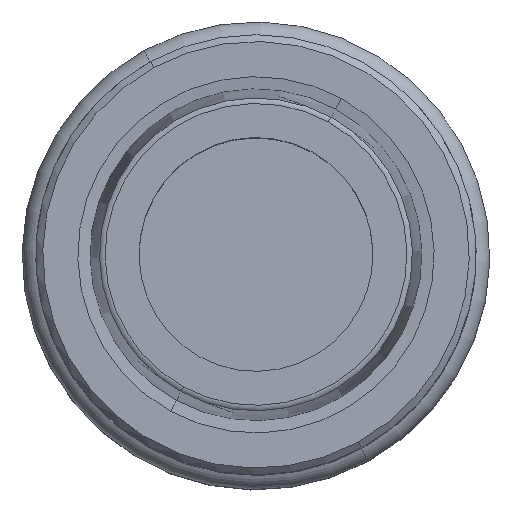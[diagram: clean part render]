
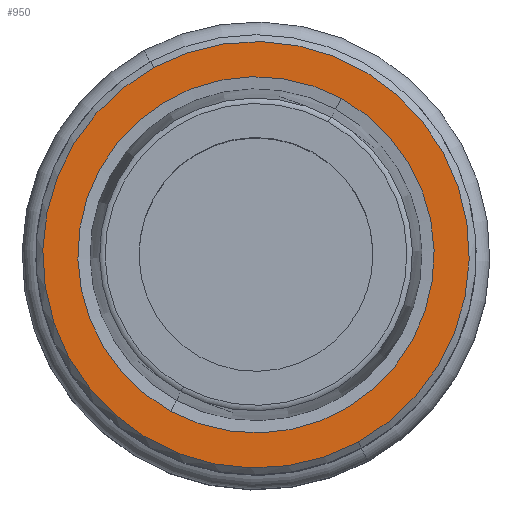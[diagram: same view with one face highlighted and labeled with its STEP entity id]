
A CAD part, top view. The second image highlights one B-rep face of the part: STEP entity #950.
In plain terms, the highlighted planar face has unit normal (0, 0, 1).
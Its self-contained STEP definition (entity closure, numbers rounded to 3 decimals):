
#849=AXIS2_PLACEMENT_3D('Circle Axis2P3D',#847,#848,$) ;
#869=AXIS2_PLACEMENT_3D('Circle Axis2P3D',#867,#868,$) ;
#926=AXIS2_PLACEMENT_3D('Plane Axis2P3D',#923,#924,#925) ;
#934=AXIS2_PLACEMENT_3D('Circle Axis2P3D',#932,#933,$) ;
#943=AXIS2_PLACEMENT_3D('Circle Axis2P3D',#941,#942,$) ;
#844=CARTESIAN_POINT('Vertex',(-7.431,13.603,0.)) ;
#847=CARTESIAN_POINT('Axis2P3D Location',(0.,0.,0.)) ;
#851=CARTESIAN_POINT('Vertex',(7.431,-13.603,0.)) ;
#867=CARTESIAN_POINT('Axis2P3D Location',(0.,0.,0.)) ;
#923=CARTESIAN_POINT('Axis2P3D Location',(0.,-12.16,0.)) ;
#932=CARTESIAN_POINT('Axis2P3D Location',(0.,0.,0.)) ;
#936=CARTESIAN_POINT('Vertex',(6.209,11.365,0.)) ;
#938=CARTESIAN_POINT('Vertex',(-6.209,-11.365,0.)) ;
#941=CARTESIAN_POINT('Axis2P3D Location',(0.,0.,0.)) ;
#848=DIRECTION('Axis2P3D Direction',(0.,0.,-1.)) ;
#868=DIRECTION('Axis2P3D Direction',(0.,0.,-1.)) ;
#924=DIRECTION('Axis2P3D Direction',(0.,0.,-1.)) ;
#925=DIRECTION('Axis2P3D XDirection',(-1.,0.,0.)) ;
#933=DIRECTION('Axis2P3D Direction',(0.,0.,-1.)) ;
#942=DIRECTION('Axis2P3D Direction',(0.,0.,-1.)) ;
#929=ORIENTED_EDGE('',*,*,#871,.F.) ;
#930=ORIENTED_EDGE('',*,*,#853,.F.) ;
#947=ORIENTED_EDGE('',*,*,#940,.T.) ;
#948=ORIENTED_EDGE('',*,*,#945,.T.) ;
#949=FACE_BOUND('',#946,.T.) ;
#950=ADVANCED_FACE('NOCUT',(#931,#949),#927,.F.) ;
#850=CIRCLE('generated circle',#849,15.5) ;
#870=CIRCLE('generated circle',#869,15.5) ;
#935=CIRCLE('generated circle',#934,12.95) ;
#944=CIRCLE('generated circle',#943,12.95) ;
#853=EDGE_CURVE('',#845,#852,#850,.T.) ;
#871=EDGE_CURVE('',#852,#845,#870,.T.) ;
#940=EDGE_CURVE('',#937,#939,#935,.T.) ;
#945=EDGE_CURVE('',#939,#937,#944,.T.) ;
#928=EDGE_LOOP('',(#929,#930)) ;
#946=EDGE_LOOP('',(#947,#948)) ;
#931=FACE_OUTER_BOUND('',#928,.T.) ;
#927=PLANE('',#926) ;
#845=VERTEX_POINT('',#844) ;
#852=VERTEX_POINT('',#851) ;
#937=VERTEX_POINT('',#936) ;
#939=VERTEX_POINT('',#938) ;
